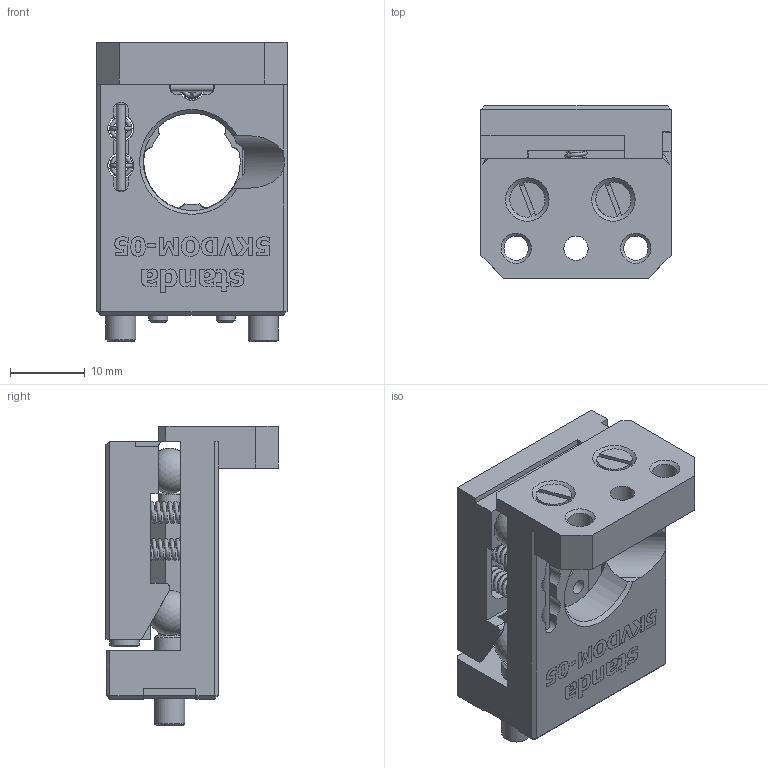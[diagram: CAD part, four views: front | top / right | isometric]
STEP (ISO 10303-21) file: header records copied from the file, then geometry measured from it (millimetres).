
FILE_DESCRIPTION(/* description */ (''),/* implementation_level */ '2;1');
FILE_NAME(/* name */ 'U:\KONSTRUKTORIAI\DOKUMENTACIJA\5\5KVDOM-05\step\5KVDOM-05.STEP',/* time_stamp */ '2019-01-03T10:30:27+02:00',/* author */ ('dsgn36'),/* organization */ (''),/* preprocessor_version */ 'ST-DEVELOPER v15.2',/* originating_system */ 'Autodesk Inventor 2014',/* authorisation */ '');
FILE_SCHEMA (('AUTOMOTIVE_DESIGN { 1 0 10303 214 3 1 1 }'));
Length unit declared in the file: millimetre
Products named in the file (2): Part14; 5KVDOM-05
Bounding box: 25.4 x 23.04 x 40.04 mm (x, y, z)
Volume: 17712.9 mm3; surface area: 14797.9 mm2
Topology: 4 solids, 10 shells, 649 faces, 1802 edges, 1187 vertices
Faces by surface type: plane 358, bspline 135, cylinder 94, cone 32, sphere 18, torus 12
Full cylindrical faces by diameter (mm): 0.5 x6, 1 x1, 1.2 x4, 1.5 x2, 2 x3, 2.013 x4, 2.5 x3, 3 x5, 3.242 x4, 3.45 x1, 3.459 x1, 3.5 x6, 4 x4, 6 x2
Entity records: 25262 total; most frequent: CARTESIAN_POINT 10280, ORIENTED_EDGE 3300, DIRECTION 2599, EDGE_CURVE 1628, VERTEX_POINT 1110, LINE 967, VECTOR 967, EDGE_LOOP 824
